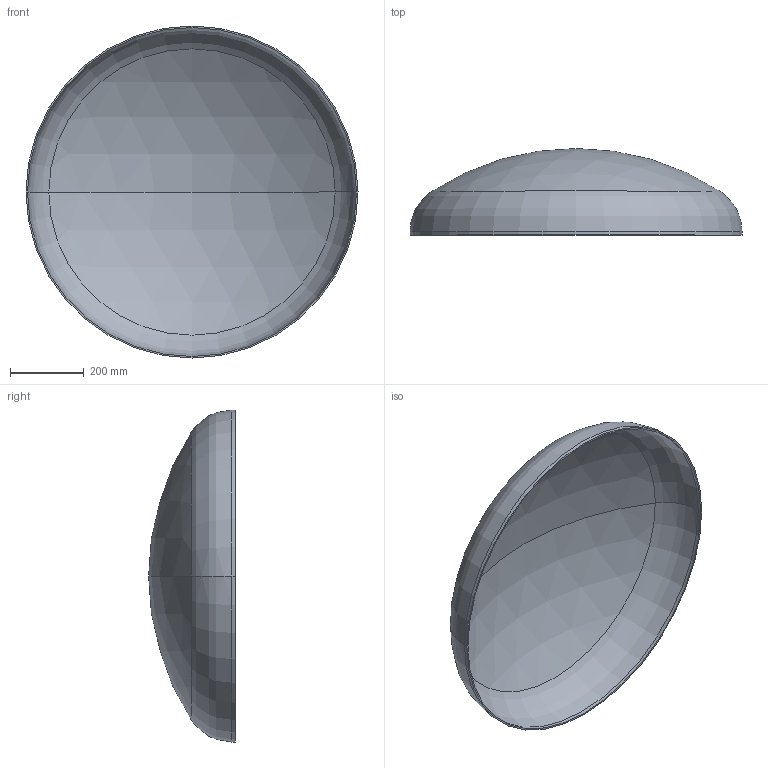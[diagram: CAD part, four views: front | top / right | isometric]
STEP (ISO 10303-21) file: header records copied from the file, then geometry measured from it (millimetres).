
FILE_DESCRIPTION (( 'STEP AP203' ), '1' );
FILE_NAME ('3D_R365_900x4_173374680.STEP', '2024-07-16T07:35:22', ( '' ), ( '' ), 'SwSTEP 2.0', 'SolidWorks 2024', '' );
FILE_SCHEMA (( 'CONFIG_CONTROL_DESIGN' ));
Length unit declared in the file: millimetre
Products named in the file (1): 3D_R365_900x4_173374680
Bounding box: 900 x 235 x 900 mm (x, y, z)
Volume: 3556754.3 mm3; surface area: 1789669.4 mm2
Topology: 1 solids, 1 shells, 13 faces, 24 edges, 14 vertices
Faces by surface type: sphere 4, torus 4, cylinder 4, plane 1
Entity records: 407 total; most frequent: DIRECTION 72, CARTESIAN_POINT 52, ORIENTED_EDGE 48, AXIS2_PLACEMENT_3D 34, EDGE_CURVE 24, CIRCLE 20, VERTEX_POINT 14, EDGE_LOOP 14
